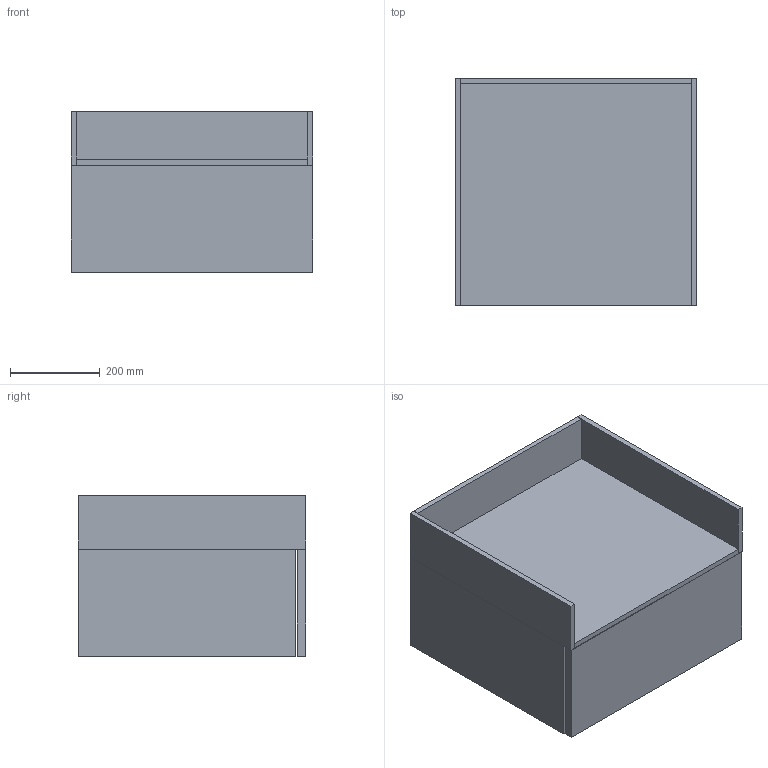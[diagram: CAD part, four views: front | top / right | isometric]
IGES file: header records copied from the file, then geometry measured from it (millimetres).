
Start section: Data from Parasolid IGES Translator 19.0.9, Copyright(c) 2006 Siemens PL M Software. All Rights Reserved.
Global section: file name: noorth-SI-H 36 D 51 W 54_8375.igs; native system: By Siemens PLM Incorporated; preprocessor: XPlus GENERIC/IGES 19.0.9; author: Noname; organization: Noname; date: 20200601.100032; units: metre
Bounding box: 540.01 x 508 x 360 mm (x, y, z)
Volume: 19619617.2 mm3; surface area: 3010536.7 mm2
Topology: 10 solids, 10 shells, 60 faces, 120 edges, 80 vertices
Faces by surface type: plane 60
